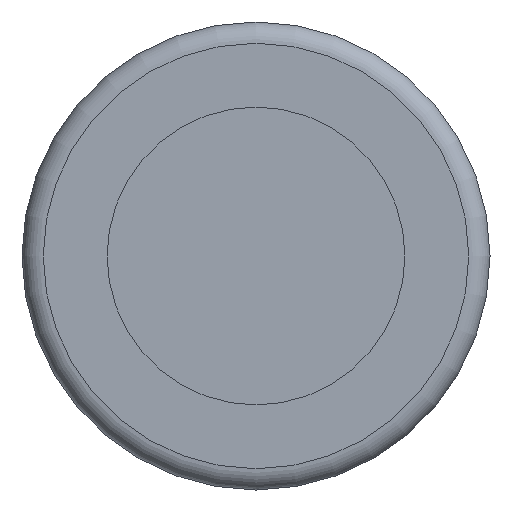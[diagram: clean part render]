
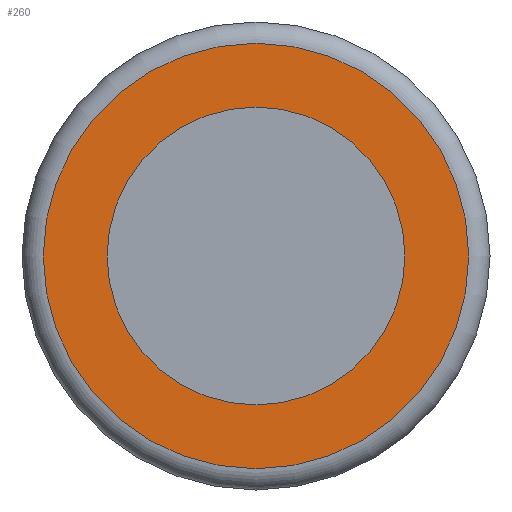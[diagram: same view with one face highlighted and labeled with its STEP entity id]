
A CAD part, left-side view. The second image highlights one B-rep face of the part: STEP entity #260.
In plain terms, the highlighted planar face has unit normal (-1, 0, 0).
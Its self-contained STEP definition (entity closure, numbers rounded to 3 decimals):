
#209=CARTESIAN_POINT('',(120.0,20.0,0.));
#210=VERTEX_POINT('',#209);
#211=CARTESIAN_POINT('',(120.0,0.0,0.0));
#212=DIRECTION('',(1.0,0.0,0.0));
#213=DIRECTION('',(0.0,-1.0,0.0));
#214=AXIS2_PLACEMENT_3D('',#211,#212,#213);
#215=CIRCLE('',#214,20.0);
#216=EDGE_CURVE('',#210,#210,#215,.T.);
#241=CARTESIAN_POINT('',(120.0,0.0,0.0));
#242=DIRECTION('',(-1.0,0.0,0.0));
#243=DIRECTION('',(0.0,0.0,1.0));
#244=AXIS2_PLACEMENT_3D('',#241,#242,#243);
#245=PLANE('',#244);
#246=ORIENTED_EDGE('',*,*,#216,.F.);
#247=EDGE_LOOP('',(#246));
#248=FACE_OUTER_BOUND('',#247,.T.);
#249=CARTESIAN_POINT('',(120.0,14.,0.));
#250=VERTEX_POINT('',#249);
#251=CARTESIAN_POINT('',(120.0,0.0,0.0));
#252=DIRECTION('',(1.0,0.0,0.0));
#253=DIRECTION('',(0.0,-1.0,0.0));
#254=AXIS2_PLACEMENT_3D('',#251,#252,#253);
#255=CIRCLE('',#254,14.);
#256=EDGE_CURVE('',#250,#250,#255,.T.);
#257=ORIENTED_EDGE('',*,*,#256,.T.);
#258=EDGE_LOOP('',(#257));
#259=FACE_BOUND('',#258,.T.);
#260=ADVANCED_FACE('',(#248,#259),#245,.T.);
